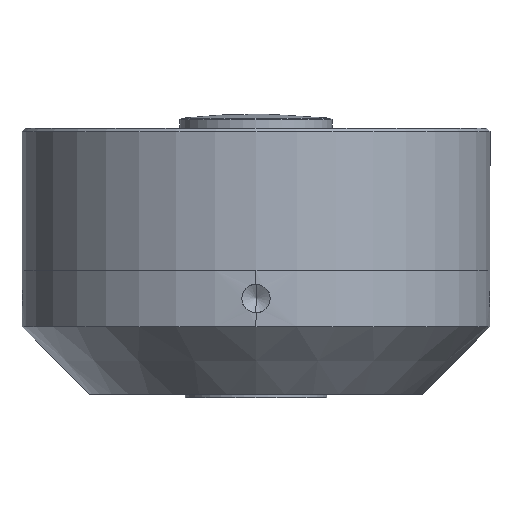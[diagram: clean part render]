
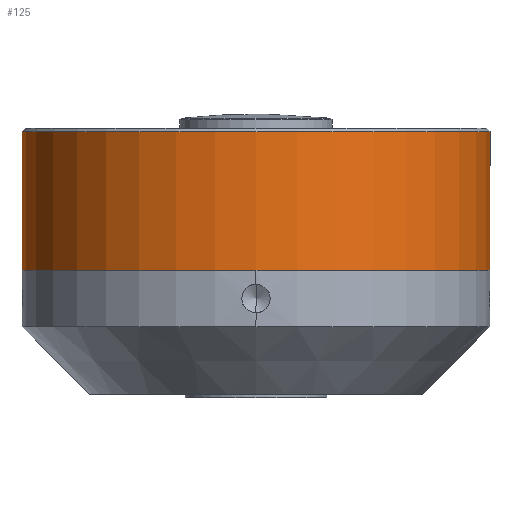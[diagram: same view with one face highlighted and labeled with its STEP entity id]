
A CAD part, left-side view. The second image highlights one B-rep face of the part: STEP entity #125.
In plain terms, the highlighted cylindrical face has radius 52.375 mm (diameter 104.75 mm), a partial arc.
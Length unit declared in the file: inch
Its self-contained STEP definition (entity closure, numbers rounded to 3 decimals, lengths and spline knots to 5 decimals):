
#56 = CARTESIAN_POINT ( 'NONE',  ( 0., -2.062, -1.25 ) ) ;
#125 = ADVANCED_FACE ( 'NONE', ( #8808 ), #8809, .T. ) ;
#1458 = CIRCLE ( 'NONE', #1459, 2.062 ) ;
#1459 = AXIS2_PLACEMENT_3D ( 'NONE', #1460, #1461, #1462 ) ;
#1460 = CARTESIAN_POINT ( 'NONE',  ( 0., 0., -1.25 ) ) ;
#1461 = DIRECTION ( 'NONE',  ( 0., 0., 1. ) ) ;
#1462 = DIRECTION ( 'NONE',  ( 0., 1., 0. ) ) ;
#2120 = VERTEX_POINT ( 'NONE', #9687 ) ;
#2276 = CARTESIAN_POINT ( 'NONE',  ( 0., 2.062, -0.03 ) ) ;
#2549 = EDGE_CURVE ( 'NONE', #8001, #4109, #9848, .T. ) ;
#3468 = CIRCLE ( 'NONE', #3469, 2.062 ) ;
#3469 = AXIS2_PLACEMENT_3D ( 'NONE', #3470, #3471, #3472 ) ;
#3470 = CARTESIAN_POINT ( 'NONE',  ( 0., 0., -0.03 ) ) ;
#3471 = DIRECTION ( 'NONE',  ( 0., 0., 1. ) ) ;
#3472 = DIRECTION ( 'NONE',  ( -1., 0., 0. ) ) ;
#4109 = VERTEX_POINT ( 'NONE', #56 ) ;
#4831 = LINE ( 'NONE', #4832, #4833 ) ;
#4832 = CARTESIAN_POINT ( 'NONE',  ( 0., 2.062, -0.03 ) ) ;
#4833 = VECTOR ( 'NONE', #4834, 39.37008 ) ;
#4834 = DIRECTION ( 'NONE',  ( 0., 0., -1. ) ) ;
#5641 = EDGE_CURVE ( 'NONE', #2120, #4109, #1458, .T. ) ;
#6671 = CARTESIAN_POINT ( 'NONE',  ( 0., -2.062, -0.03 ) ) ;
#6864 = ORIENTED_EDGE ( 'NONE', *, *, #5641, .T. ) ;
#6965 = ORIENTED_EDGE ( 'NONE', *, *, #10466, .T. ) ;
#8001 = VERTEX_POINT ( 'NONE', #6671 ) ;
#8537 = VERTEX_POINT ( 'NONE', #2276 ) ;
#8808 = FACE_OUTER_BOUND ( 'NONE', #10607, .T. ) ;
#8809 = CYLINDRICAL_SURFACE ( 'NONE', #8811, 2.062 ) ;
#8811 = AXIS2_PLACEMENT_3D ( 'NONE', #8812, #8813, #8814 ) ;
#8812 = CARTESIAN_POINT ( 'NONE',  ( 0., 0., -0.03 ) ) ;
#8813 = DIRECTION ( 'NONE',  ( 0., 0., -1. ) ) ;
#8814 = DIRECTION ( 'NONE',  ( 0., 1., 0. ) ) ;
#8959 = EDGE_CURVE ( 'NONE', #8537, #8001, #3468, .T. ) ;
#9355 = ORIENTED_EDGE ( 'NONE', *, *, #8959, .F. ) ;
#9687 = CARTESIAN_POINT ( 'NONE',  ( 0., 2.062, -1.25 ) ) ;
#9848 = LINE ( 'NONE', #9849, #9850 ) ;
#9849 = CARTESIAN_POINT ( 'NONE',  ( 0., -2.062, -0.03 ) ) ;
#9850 = VECTOR ( 'NONE', #9851, 39.37008 ) ;
#9851 = DIRECTION ( 'NONE',  ( 0., 0., -1. ) ) ;
#10069 = ORIENTED_EDGE ( 'NONE', *, *, #2549, .F. ) ;
#10466 = EDGE_CURVE ( 'NONE', #8537, #2120, #4831, .T. ) ;
#10607 = EDGE_LOOP ( 'NONE', ( #10069, #9355, #6965, #6864 ) ) ;
